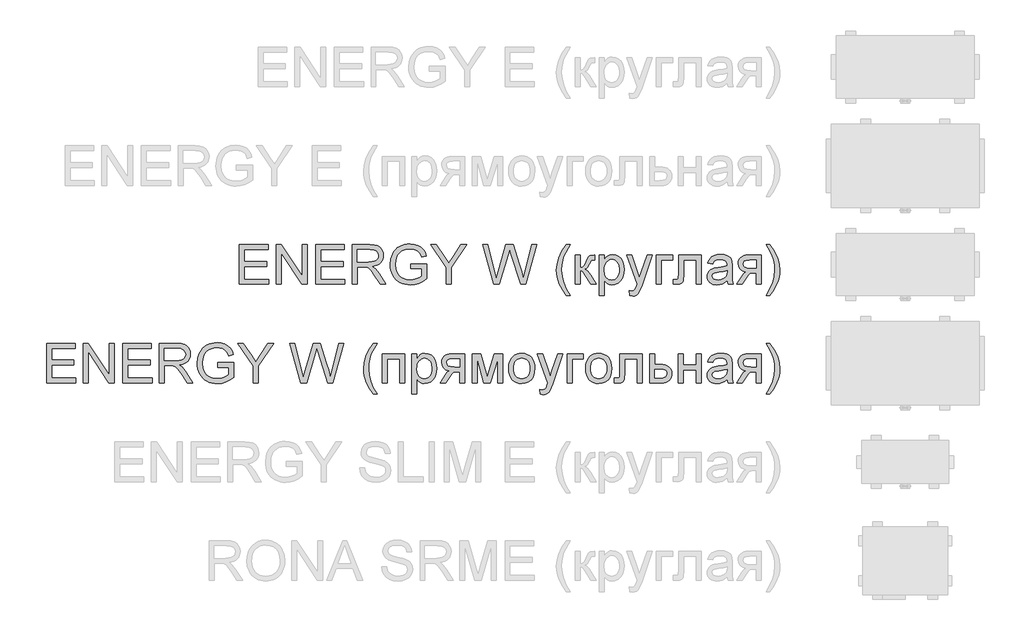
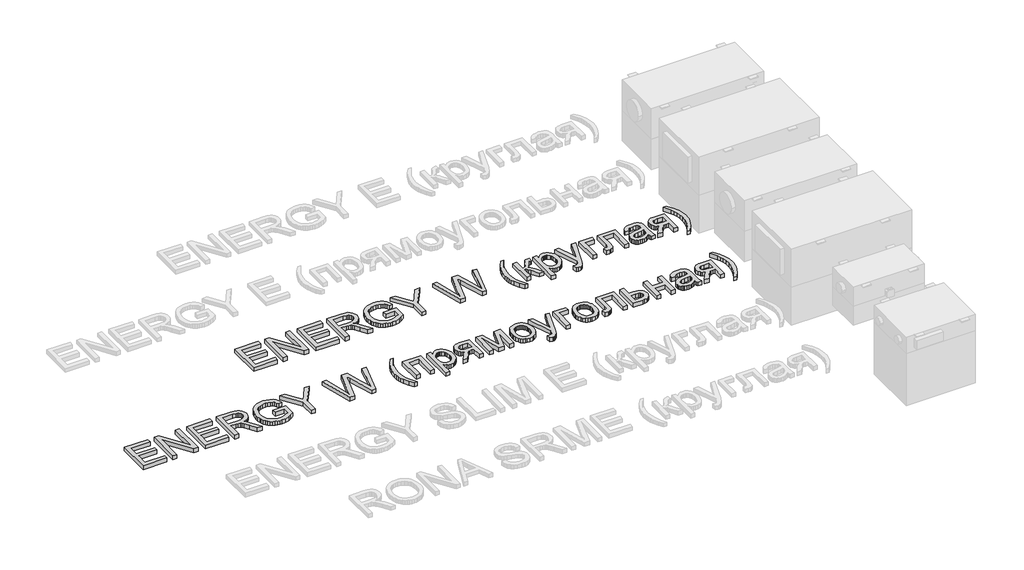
# One storey, part 22 of 28: 2 proxies.
"""IFC4 building model written with IfcOpenShell, lengths in millimetres."""

from ifc_helpers import new_model, si_unit, origin, origin_with_axes, place, context, project, spatial, polyline, outline, extrude, element, save

model = new_model("IFC4")

# Units and contexts
model_context = context("Model", 3, world=origin())
ifc_project = project(units=[si_unit("LENGTHUNIT", "METRE", prefix="MILLI")], contexts=[model_context])

# Site, building, storey
site = spatial("IfcSite", under=ifc_project)
building = spatial("IfcBuilding", under=site)
storey = spatial("IfcBuildingStorey", under=building, Name="Уровень 1", Elevation=0.0)

# Proxies
placement = place(None, origin())
element("IfcBuildingElementProxy", 1, Name="400 мм Arial", ObjectType="400 мм Arial", at=placement, inside=storey, context=model_context, shape_type="SweptSolid", body=[
    extrude(outline(polyline([(-27416.0269748, 16271.3067858), (-27416.0269748, 16673.1320263), (-27127.2150831, 16673.1320263), (-27127.2150831, 16622.9038713), (-27365.7988197, 16622.9038713), (-27365.7988197, 16503.612003), (-27139.7721219, 16503.612003), (-27139.7721219, 16453.3838479), (-27365.7988197, 16453.3838479), (-27365.7988197, 16321.5349408), (-27120.9365637, 16321.5349408), (-27120.9365637, 16271.3067858), (-27416.0269748, 16271.3067858)])), origin_with_axes(), (0.0, 0.0, 1.0), 50.0),
    extrude(outline(polyline([(-27045.5943311, 16271.3067858), (-27045.5943311, 16673.1320263), (-26991.8345089, 16673.1320263), (-26781.8965169, 16354.7914732), (-26781.8965169, 16673.1320263), (-26731.6683619, 16673.1320263), (-26731.6683619, 16271.3067858), (-26785.4281841, 16271.3067858), (-26995.366176, 16589.7454408), (-26995.366176, 16271.3067858), (-27045.5943311, 16271.3067858)])), origin_with_axes(), (0.0, 0.0, 1.0), 50.0),
    extrude(outline(polyline([(-26643.7690905, 16271.3067858), (-26643.7690905, 16673.1320263), (-26354.9571988, 16673.1320263), (-26354.9571988, 16622.9038713), (-26593.5409354, 16622.9038713), (-26593.5409354, 16503.612003), (-26367.5142376, 16503.612003), (-26367.5142376, 16453.3838479), (-26593.5409354, 16453.3838479), (-26593.5409354, 16321.5349408), (-26348.6786794, 16321.5349408), (-26348.6786794, 16271.3067858), (-26643.7690905, 16271.3067858)])), origin_with_axes(), (0.0, 0.0, 1.0), 50.0),
    extrude(outline(polyline([(-26273.3364468, 16271.3067858), (-26273.3364468, 16673.1320263), (-26100.1866544, 16673.1320263), (-26053.649582, 16670.4219623), (-26019.7921757, 16662.2917702), (-25995.0459802, 16647.2821848), (-25975.84254, 16623.9339409), (-25963.5184932, 16594.9816278), (-25959.4104776, 16563.1598353), (-25961.1119318, 16542.5216553), (-25966.2162945, 16523.5757326), (-25974.7235656, 16506.322067), (-25986.6337452, 16490.7606586), (-26002.1001175, 16477.3881481), (-26021.2759665, 16466.7011761), (-26044.1612922, 16458.6997427), (-26070.7560948, 16453.3838479), (-26042.208452, 16431.8995394), (-26001.4961778, 16380.1998563), (-25934.4926038, 16271.3067858), (-25992.8632137, 16271.3067858), (-26045.1515079, 16354.5952695), (-26082.9207261, 16409.7285178), (-26096.9615556, 16425.804961), (-26109.4572807, 16435.7745631), (-26133.3450849, 16445.3394949), (-26162.4813389, 16447.1053285), (-26223.1082917, 16447.1053285), (-26223.1082917, 16271.3067858), (-26273.3364468, 16271.3067858)]), holes=[polyline([(-26223.1082917, 16497.3334836), (-26110.683554, 16497.3334836), (-26078.3957776, 16499.1115799), (-26053.3430137, 16504.4458688), (-26034.4829301, 16513.6919696), (-26020.7731944, 16527.2055016), (-26012.4222731, 16543.5517249), (-26009.6386327, 16561.2958998), (-26014.9483961, 16585.7968407), (-26030.8776865, 16605.5398411), (-26043.0392522, 16613.1366043), (-26058.2848952, 16618.5628637), (-26098.0284134, 16622.9038713), (-26223.1082917, 16622.9038713), (-26223.1082917, 16497.3334836)])]), origin_with_axes(), (0.0, 0.0, 1.0), 50.0),
    extrude(outline(polyline([(-25683.1556247, 16428.2697704), (-25683.1556247, 16478.4979254), (-25519.9141207, 16478.4979254), (-25519.9141207, 16328.3039695), (-25559.5840625, 16300.7128199), (-25600.5048031, 16280.9207686), (-25642.5782406, 16269.0013919), (-25685.7062732, 16265.0282664), (-25714.5574187, 16266.6070933), (-25742.0535321, 16271.343574), (-25768.1946136, 16279.2377084), (-25792.980663, 16290.2894967), (-25815.611537, 16304.3333919), (-25835.2870924, 16321.203847), (-25852.0073291, 16340.9008622), (-25865.7722471, 16363.4244373), (-25876.5235984, 16388.0541369), (-25884.2031351, 16414.0695253), (-25888.810857, 16441.4706026), (-25890.3467644, 16470.2573687), (-25884.2276605, 16526.8498823), (-25876.5787807, 16553.6654141), (-25865.870349, 16579.4937958), (-25852.2924377, 16603.2007247), (-25836.0351191, 16623.651898), (-25817.0983934, 16640.8473156), (-25795.4822605, 16654.7869775), (-25771.65577, 16665.5597886), (-25746.0879713, 16673.2546537), (-25718.7788646, 16677.8715727), (-25689.7284497, 16679.4105457), (-25648.3539879, 16675.8420904), (-25611.1488555, 16665.1367243), (-25579.8175722, 16648.0669997), (-25556.0646581, 16625.4054688), (-25538.4921614, 16596.0607484), (-25525.7021308, 16558.941455), (-25572.0062112, 16545.893907), (-25582.3436953, 16572.3691479), (-25594.9129968, 16592.3451402), (-25611.541263, 16607.4037765), (-25634.0556411, 16619.1269495), (-25660.898764, 16626.6685304), (-25690.5132646, 16629.1823907), (-25725.1800113, 16626.4723266), (-25754.8190373, 16618.3421345), (-25779.3199782, 16605.8096212), (-25798.5724693, 16589.8925936), (-25813.3490628, 16571.4126547), (-25824.4223108, 16551.1914077), (-25836.1945347, 16513.2750367), (-25840.1186093, 16472.3175079), (-25835.397457, 16424.2843821), (-25821.2340002, 16384.7615931), (-25798.0574345, 16354.0311837), (-25766.2969556, 16332.375197), (-25729.1286114, 16319.5361153), (-25689.7284497, 16315.2564214), (-25654.9390757, 16318.4815203), (-25621.008093, 16328.1568167), (-25591.5407452, 16341.4864077), (-25570.1422758, 16355.67439), (-25570.1422758, 16428.2697704), (-25683.1556247, 16428.2697704)])), origin_with_axes(), (0.0, 0.0, 1.0), 50.0),
    extrude(outline(polyline([(-25325.2800198, 16271.3067858), (-25325.2800198, 16441.5135222), (-25482.2430044, 16673.1320263), (-25422.9894777, 16673.1320263), (-25339.2104847, 16549.4255741), (-25296.3399695, 16486.3460747), (-25253.3713525, 16553.9382599), (-25177.3424068, 16673.1320263), (-25118.0888801, 16673.1320263), (-25275.0518647, 16441.5135222), (-25275.0518647, 16271.3067858), (-25325.2800198, 16271.3067858)])), origin_with_axes(), (0.0, 0.0, 1.0), 50.0),
    extrude(outline(polyline([(-24845.2675925, 16271.3067858), (-24954.8473761, 16673.1320263), (-24903.0495912, 16673.1320263), (-24839.4795824, 16409.0418047), (-24819.8592093, 16327.5191546), (-24798.8654101, 16399.6240257), (-24719.2066955, 16673.1320263), (-24644.5511759, 16673.1320263), (-24586.6710753, 16474.8681564), (-24561.8758289, 16401.2917574), (-24543.6043564, 16327.5191546), (-24524.5725945, 16406.68736), (-24460.4139746, 16673.1320263), (-24408.6161897, 16673.1320263), (-24518.2940752, 16271.3067858), (-24571.9557955, 16271.3067858), (-24668.2918273, 16581.3086804), (-24681.7317829, 16624.571603), (-24696.8394702, 16572.4795125), (-24784.6406397, 16271.3067858), (-24845.2675925, 16271.3067858)])), origin_with_axes(), (0.0, 0.0, 1.0), 50.0),
    extrude(outline(polyline([(-24107.2472592, 16158.2934368), (-24146.1691743, 16212.9116504), (-24178.5673153, 16276.1137772), (-24191.3144265, 16310.1673872), (-24200.4195059, 16344.8341339), (-24205.8825535, 16380.1140172), (-24207.7035694, 16416.0070372), (-24202.2589158, 16478.424349), (-24185.9249552, 16538.1438596), (-24153.5022887, 16605.7850958), (-24107.2472592, 16673.1320263), (-24069.5761429, 16673.1320263), (-24116.5669364, 16593.5714135), (-24132.6065914, 16555.8021954), (-24144.8202737, 16516.4633473), (-24154.3116291, 16466.2106668), (-24157.4754143, 16415.7127316), (-24151.9817098, 16351.3211197), (-24135.5005964, 16286.9540333), (-24108.0320741, 16222.6114723), (-24069.5761429, 16158.2934368), (-24107.2472592, 16158.2934368)])), origin_with_axes(), (0.0, 0.0, 1.0), 50.0),
    extrude(outline(polyline([(-24019.3479878, 16566.3971968), (-23969.1198328, 16566.3971968), (-23969.1198328, 16440.8268091), (-23948.6901193, 16443.083152), (-23935.4708929, 16449.8521807), (-23923.7722455, 16467.5105165), (-23907.9042688, 16502.4347806), (-23884.9974832, 16547.8068933), (-23875.5551787, 16556.967155), (-23864.7884989, 16562.5712241), (-23828.0493503, 16566.3971968), (-23818.4353675, 16566.3971968), (-23818.4353675, 16515.8747361), (-23831.973425, 16516.1690417), (-23847.6697234, 16514.8446666), (-23856.4988913, 16510.871541), (-23873.7648196, 16477.8112124), (-23884.3720838, 16455.7750809), (-23894.0228548, 16442.0530824), (-23905.7092395, 16432.8928208), (-23922.4233448, 16424.5418995), (-23906.5063172, 16417.4724338), (-23890.7364423, 16404.9951028), (-23875.1137203, 16387.1099065), (-23859.638151, 16363.8168448), (-23805.8783288, 16271.3067858), (-23862.9736144, 16271.3067858), (-23915.6543161, 16361.8548075), (-23929.8790866, 16385.9510782), (-23942.1418198, 16400.1635859), (-23954.5271803, 16407.1165556), (-23969.1198328, 16409.4342122), (-23969.1198328, 16271.3067858), (-24019.3479878, 16271.3067858), (-24019.3479878, 16566.3971968)])), origin_with_axes(), (0.0, 0.0, 1.0), 50.0),
    extrude(outline(polyline([(-23774.4857318, 16158.2934368), (-23774.4857318, 16566.3971968), (-23724.2575768, 16566.3971968), (-23724.2575768, 16517.1500604), (-23707.8745653, 16541.4425348), (-23689.5295164, 16558.7943022), (-23668.1433098, 16569.2053627), (-23642.6368248, 16572.6757162), (-23608.6690539, 16567.8196739), (-23578.9687141, 16553.2515469), (-23554.7866043, 16529.854252), (-23537.3735232, 16498.510706), (-23526.8520982, 16461.5017773), (-23523.3449565, 16421.1083342), (-23527.3058193, 16378.1519799), (-23539.1884077, 16339.7328369), (-23558.6125771, 16307.8006797), (-23585.1981826, 16284.3052829), (-23616.1615839, 16269.8475205), (-23648.7191404, 16265.0282664), (-23671.809867, 16268.2533652), (-23692.4235215, 16277.9286617), (-23710.0695945, 16292.5335769), (-23724.2575768, 16310.5475319), (-23724.2575768, 16158.2934368), (-23774.4857318, 16158.2934368)]), holes=[polyline([(-23724.2575768, 16416.4975465), (-23718.825186, 16371.4687903), (-23712.0346975, 16354.0311837), (-23702.5280136, 16339.9780915), (-23678.4807938, 16321.436839), (-23664.7189415, 16316.8015258), (-23649.7982609, 16315.2564214), (-23634.6629825, 16316.8567081), (-23620.6497442, 16321.6575682), (-23607.7585459, 16329.6590016), (-23595.9893878, 16340.8610083), (-23586.1822669, 16355.4230039), (-23579.1771806, 16373.504404), (-23574.9741288, 16395.1052085), (-23573.5731115, 16420.2254174), (-23579.0422905, 16465.0089189), (-23585.8787643, 16482.5814156), (-23595.4498275, 16496.9410761), (-23619.4602591, 16516.0709399), (-23633.0657615, 16520.8534058), (-23647.7381218, 16522.4475611), (-23662.3644968, 16520.7522383), (-23676.1263491, 16515.6662697), (-23701.0564856, 16495.3223953), (-23711.206963, 16480.2239051), (-23718.457304, 16462.0536003), (-23722.8075086, 16440.8114807), (-23724.2575768, 16416.4975465)])]), origin_with_axes(), (0.0, 0.0, 1.0), 50.0),
    extrude(outline(polyline([(-23466.838282, 16158.2934368), (-23473.1168014, 16206.6576565), (-23447.6103164, 16202.2430725), (-23434.1948863, 16203.6287614), (-23423.7715631, 16207.7858279), (-23409.1543852, 16223.2368717), (-23395.420124, 16260.221275), (-23391.4960494, 16272.3859063), (-23498.2308789, 16566.3971968), (-23445.2558716, 16566.3971968), (-23388.6510953, 16402.5670816), (-23368.9326204, 16337.0350356), (-23349.2141454, 16394.9151361), (-23291.0397392, 16566.3971968), (-23238.4571394, 16566.3971968), (-23341.1697925, 16264.2434514), (-23367.8534998, 16198.7114054), (-23381.5141846, 16177.7911826), (-23396.9897539, 16163.296632), (-23414.9669207, 16154.8353461), (-23436.1323981, 16152.0149174), (-23466.838282, 16158.2934368)])), origin_with_axes(), (0.0, 0.0, 1.0), 50.0),
    extrude(outline(polyline([(-23196.8619485, 16566.3971968), (-23033.6204445, 16566.3971968), (-23033.6204445, 16516.1690417), (-23146.6337934, 16516.1690417), (-23146.6337934, 16271.3067858), (-23196.8619485, 16271.3067858), (-23196.8619485, 16566.3971968)])), origin_with_axes(), (0.0, 0.0, 1.0), 50.0),
    extrude(outline(polyline([(-22970.8352506, 16566.3971968), (-22744.8085528, 16566.3971968), (-22744.8085528, 16271.6010913), (-22795.0367079, 16271.6010913), (-22795.0367079, 16516.1690417), (-22920.6070956, 16516.1690417), (-22920.6070956, 16375.3928649), (-22923.9916099, 16310.44943), (-22930.331443, 16295.746413), (-22942.5819134, 16283.0299587), (-22961.1722169, 16274.237579), (-22986.5315491, 16271.3067858), (-23027.3419251, 16273.8574343), (-23027.3419251, 16321.5349408), (-23004.8765979, 16321.5349408), (-22982.1660161, 16324.6251496), (-22973.0915936, 16334.4353361), (-22970.8352506, 16378.237819), (-22970.8352506, 16566.3971968)])), origin_with_axes(), (0.0, 0.0, 1.0), 50.0),
    extrude(outline(polyline([(-22481.1107387, 16308.9779021), (-22505.1089075, 16288.4010358), (-22529.8183148, 16274.9365548), (-22555.8030464, 16267.5053385), (-22583.627188, 16265.0282664), (-22605.9913476, 16266.5181884), (-22625.6025236, 16270.9879547), (-22642.4607161, 16278.4375651), (-22656.5659249, 16288.8670197), (-22667.7035523, 16301.6141308), (-22675.6590005, 16316.0167109), (-22680.4322693, 16332.07476), (-22682.023359, 16349.7882781), (-22679.6198633, 16370.610399), (-22672.4093762, 16389.5195335), (-22661.2870772, 16405.7063413), (-22647.1481458, 16418.361482), (-22630.5321424, 16427.9264138), (-22611.9786271, 16434.8425953), (-22568.5195007, 16442.396439), (-22517.1631742, 16450.3426901), (-22481.4050443, 16459.6623673), (-22481.1107387, 16470.8459799), (-22484.5688294, 16493.2622562), (-22494.9431017, 16507.928485), (-22518.1441928, 16518.8177921), (-22550.4687575, 16522.4475611), (-22580.3898264, 16520.0318027), (-22601.2855238, 16512.7845274), (-22615.5348197, 16499.38136), (-22625.5166845, 16478.4979254), (-22675.7448396, 16484.7764448), (-22667.0260363, 16512.2449671), (-22654.0152764, 16533.8273775), (-22635.4985493, 16550.3330164), (-22610.2618444, 16562.5712241), (-22579.396545, 16570.1495932), (-22543.9940344, 16572.6757162), (-22510.0385262, 16570.4438988), (-22483.1218269, 16563.7484465), (-22462.8270035, 16553.6807425), (-22448.7371231, 16541.3321702), (-22439.3929204, 16526.0650674), (-22433.3351302, 16507.241772), (-22430.8825836, 16463.2921363), (-22430.8825836, 16400.8012481), (-22428.3319351, 16313.5396388), (-22418.3255448, 16271.3067858), (-22468.5536999, 16271.3067858), (-22476.5980529, 16288.7689178), (-22481.1107387, 16308.9779021)]), holes=[polyline([(-22481.1107387, 16409.4342122), (-22514.8577804, 16401.0710282), (-22562.1428795, 16394.0322193), (-22605.3567512, 16385.8897645), (-22616.6016775, 16380.3224837), (-22624.9280733, 16372.6460127), (-22630.0784212, 16363.4489628), (-22631.7952039, 16353.3199452), (-22628.0550703, 16338.3839362), (-22616.8346694, 16326.1457285), (-22598.379256, 16317.9787482), (-22572.9340847, 16315.2564214), (-22545.9560717, 16318.2607911), (-22522.1173184, 16327.2739), (-22502.7912509, 16340.55444), (-22489.3512954, 16356.361103), (-22483.391607, 16372.6460127), (-22481.4050443, 16395.2094417), (-22481.1107387, 16409.4342122)])]), origin_with_axes(), (0.0, 0.0, 1.0), 50.0),
    extrude(outline(polyline([(-22135.7921725, 16566.3971968), (-22135.7921725, 16271.3067858), (-22186.0203276, 16271.3067858), (-22186.0203276, 16384.3201347), (-22213.390748, 16384.3201347), (-22235.2184131, 16382.7259794), (-22250.6694569, 16377.9435134), (-22265.556415, 16364.037574), (-22285.6918228, 16335.0729982), (-22325.7173839, 16271.3067858), (-22383.7936882, 16271.3067858), (-22333.3693294, 16351.9465191), (-22311.100206, 16380.8865694), (-22290.5969161, 16393.7379137), (-22324.932569, 16404.2593388), (-22338.2744227, 16413.0701126), (-22349.0656279, 16424.2475939), (-22363.3394493, 16450.8331994), (-22368.0973897, 16481.1466758), (-22366.4725776, 16499.2342072), (-22361.5981412, 16515.5313796), (-22353.4740804, 16530.038193), (-22342.1003954, 16542.7546473), (-22327.6487644, 16553.0982627), (-22310.2908656, 16560.4865594), (-22290.026699, 16564.9195375), (-22266.8562647, 16566.3971968), (-22135.7921725, 16566.3971968)]), holes=[polyline([(-22186.0203276, 16516.1690417), (-22252.2390867, 16516.1690417), (-22286.4398496, 16513.262774), (-22305.8517562, 16504.5439707), (-22314.864865, 16491.9256183), (-22317.8692347, 16477.3207031), (-22313.442388, 16458.1785766), (-22300.161848, 16444.8980365), (-22275.6241189, 16437.1357264), (-22237.4257051, 16434.5482897), (-22186.0203276, 16434.5482897), (-22186.0203276, 16516.1690417)])]), origin_with_axes(), (0.0, 0.0, 1.0), 50.0),
    extrude(outline(polyline([(-22047.8929011, 16158.2934368), (-22085.5640175, 16158.2934368), (-22047.1080862, 16222.6114723), (-22019.6395639, 16286.9540333), (-22003.1584505, 16351.3211197), (-21997.6647461, 16415.7127316), (-22000.8285312, 16465.8427848), (-22010.3198867, 16515.5804305), (-22022.3128397, 16554.992855), (-22038.2789183, 16592.7865986), (-22085.5640175, 16673.1320263), (-22047.8929011, 16673.1320263), (-22001.6378716, 16605.7850958), (-21969.2152051, 16538.1438596), (-21952.8812445, 16478.424349), (-21947.436591, 16416.0070372), (-21949.2668039, 16380.1140172), (-21954.7574427, 16344.8341339), (-21963.9085073, 16310.1673872), (-21976.7199978, 16276.1137772), (-22009.1549271, 16212.9116504), (-22047.8929011, 16158.2934368)])), origin_with_axes(), (0.0, 0.0, 1.0), 50.0),
])
element("IfcBuildingElementProxy", 2, Name="400 мм Arial", ObjectType="400 мм Arial", at=placement, inside=storey, context=model_context, shape_type="SweptSolid", body=[
    extrude(outline(polyline([(-29368.6465033, 15271.3067858), (-29368.6465033, 15673.1320263), (-29079.8346116, 15673.1320263), (-29079.8346116, 15622.9038713), (-29318.4183482, 15622.9038713), (-29318.4183482, 15503.612003), (-29092.3916504, 15503.612003), (-29092.3916504, 15453.3838479), (-29318.4183482, 15453.3838479), (-29318.4183482, 15321.5349408), (-29073.5560922, 15321.5349408), (-29073.5560922, 15271.3067858), (-29368.6465033, 15271.3067858)])), origin_with_axes(), (0.0, 0.0, 1.0), 50.0),
    extrude(outline(polyline([(-28998.2138596, 15271.3067858), (-28998.2138596, 15673.1320263), (-28944.4540374, 15673.1320263), (-28734.5160455, 15354.7914732), (-28734.5160455, 15673.1320263), (-28684.2878904, 15673.1320263), (-28684.2878904, 15271.3067858), (-28738.0477126, 15271.3067858), (-28947.9857045, 15589.7454408), (-28947.9857045, 15271.3067858), (-28998.2138596, 15271.3067858)])), origin_with_axes(), (0.0, 0.0, 1.0), 50.0),
    extrude(outline(polyline([(-28596.388619, 15271.3067858), (-28596.388619, 15673.1320263), (-28307.5767273, 15673.1320263), (-28307.5767273, 15622.9038713), (-28546.160464, 15622.9038713), (-28546.160464, 15503.612003), (-28320.1337661, 15503.612003), (-28320.1337661, 15453.3838479), (-28546.160464, 15453.3838479), (-28546.160464, 15321.5349408), (-28301.298208, 15321.5349408), (-28301.298208, 15271.3067858), (-28596.388619, 15271.3067858)])), origin_with_axes(), (0.0, 0.0, 1.0), 50.0),
    extrude(outline(polyline([(-28225.9559753, 15271.3067858), (-28225.9559753, 15673.1320263), (-28052.806183, 15673.1320263), (-28006.2691106, 15670.4219623), (-27972.4117043, 15662.2917702), (-27947.6655087, 15647.2821848), (-27928.4620686, 15623.9339409), (-27916.1380217, 15594.9816278), (-27912.0300061, 15563.1598353), (-27913.7314604, 15542.5216553), (-27918.835823, 15523.5757326), (-27927.3430942, 15506.322067), (-27939.2532738, 15490.7606586), (-27954.719646, 15477.3881481), (-27973.895495, 15466.7011761), (-27996.7808208, 15458.6997427), (-28023.3756233, 15453.3838479), (-27994.8279805, 15431.8995394), (-27954.1157064, 15380.1998563), (-27887.1121323, 15271.3067858), (-27945.4827422, 15271.3067858), (-27997.7710365, 15354.5952695), (-28035.5402546, 15409.7285178), (-28049.5810841, 15425.804961), (-28062.0768092, 15435.7745631), (-28085.9646135, 15445.3394949), (-28115.1008675, 15447.1053285), (-28175.7278203, 15447.1053285), (-28175.7278203, 15271.3067858), (-28225.9559753, 15271.3067858)]), holes=[polyline([(-28175.7278203, 15497.3334836), (-28063.3030825, 15497.3334836), (-28031.0153061, 15499.1115799), (-28005.9625422, 15504.4458688), (-27987.1024586, 15513.6919696), (-27973.3927229, 15527.2055016), (-27965.0418016, 15543.5517249), (-27962.2581612, 15561.2958998), (-27967.5679247, 15585.7968407), (-27983.4972151, 15605.5398411), (-27995.6587807, 15613.1366043), (-28010.9044237, 15618.5628637), (-28050.6479419, 15622.9038713), (-28175.7278203, 15622.9038713), (-28175.7278203, 15497.3334836)])]), origin_with_axes(), (0.0, 0.0, 1.0), 50.0),
    extrude(outline(polyline([(-27635.7751532, 15428.2697704), (-27635.7751532, 15478.4979254), (-27472.5336492, 15478.4979254), (-27472.5336492, 15328.3039695), (-27512.203591, 15300.7128199), (-27553.1243316, 15280.9207686), (-27595.1977692, 15269.0013919), (-27638.3258017, 15265.0282664), (-27667.1769472, 15266.6070933), (-27694.6730606, 15271.343574), (-27720.8141421, 15279.2377084), (-27745.6001915, 15290.2894967), (-27768.2310656, 15304.3333919), (-27787.906621, 15321.203847), (-27804.6268576, 15340.9008622), (-27818.3917756, 15363.4244373), (-27829.1431269, 15388.0541369), (-27836.8226636, 15414.0695253), (-27841.4303856, 15441.4706026), (-27842.9662929, 15470.2573687), (-27836.847189, 15526.8498823), (-27829.1983092, 15553.6654141), (-27818.4898775, 15579.4937958), (-27804.9119662, 15603.2007247), (-27788.6546477, 15623.651898), (-27769.717922, 15640.8473156), (-27748.1017891, 15654.7869775), (-27724.2752985, 15665.5597886), (-27698.7074999, 15673.2546537), (-27671.3983931, 15677.8715727), (-27642.3479782, 15679.4105457), (-27600.9735165, 15675.8420904), (-27563.768384, 15665.1367243), (-27532.4371008, 15648.0669997), (-27508.6841866, 15625.4054688), (-27491.11169, 15596.0607484), (-27478.3216593, 15558.941455), (-27524.6257397, 15545.893907), (-27534.9632238, 15572.3691479), (-27547.5325253, 15592.3451402), (-27564.1607915, 15607.4037765), (-27586.6751696, 15619.1269495), (-27613.5182925, 15626.6685304), (-27643.1327931, 15629.1823907), (-27677.7995398, 15626.4723266), (-27707.4385659, 15618.3421345), (-27731.9395068, 15605.8096212), (-27751.1919978, 15589.8925936), (-27765.9685913, 15571.4126547), (-27777.0418394, 15551.1914077), (-27788.8140632, 15513.2750367), (-27792.7381378, 15472.3175079), (-27788.0169856, 15424.2843821), (-27773.8535287, 15384.7615931), (-27750.676963, 15354.0311837), (-27718.9164841, 15332.375197), (-27681.7481399, 15319.5361153), (-27642.3479782, 15315.2564214), (-27607.5586042, 15318.4815203), (-27573.6276215, 15328.1568167), (-27544.1602737, 15341.4864077), (-27522.7618043, 15355.67439), (-27522.7618043, 15428.2697704), (-27635.7751532, 15428.2697704)])), origin_with_axes(), (0.0, 0.0, 1.0), 50.0),
    extrude(outline(polyline([(-27277.8995483, 15271.3067858), (-27277.8995483, 15441.5135222), (-27434.8625329, 15673.1320263), (-27375.6090062, 15673.1320263), (-27291.8300132, 15549.4255741), (-27248.959498, 15486.3460747), (-27205.990881, 15553.9382599), (-27129.9619353, 15673.1320263), (-27070.7084086, 15673.1320263), (-27227.6713932, 15441.5135222), (-27227.6713932, 15271.3067858), (-27277.8995483, 15271.3067858)])), origin_with_axes(), (0.0, 0.0, 1.0), 50.0),
    extrude(outline(polyline([(-26797.887121, 15271.3067858), (-26907.4669046, 15673.1320263), (-26855.6691197, 15673.1320263), (-26792.0991109, 15409.0418047), (-26772.4787379, 15327.5191546), (-26751.4849387, 15399.6240257), (-26671.826224, 15673.1320263), (-26597.1707044, 15673.1320263), (-26539.2906039, 15474.8681564), (-26514.4953574, 15401.2917574), (-26496.223885, 15327.5191546), (-26477.1921231, 15406.68736), (-26413.0335031, 15673.1320263), (-26361.2357182, 15673.1320263), (-26470.9136037, 15271.3067858), (-26524.5753241, 15271.3067858), (-26620.9113559, 15581.3086804), (-26634.3513114, 15624.571603), (-26649.4589987, 15572.4795125), (-26737.2601682, 15271.3067858), (-26797.887121, 15271.3067858)])), origin_with_axes(), (0.0, 0.0, 1.0), 50.0),
    extrude(outline(polyline([(-26059.8667877, 15158.2934368), (-26098.7887028, 15212.9116504), (-26131.1868439, 15276.1137772), (-26143.933955, 15310.1673872), (-26153.0390344, 15344.8341339), (-26158.502082, 15380.1140172), (-26160.3230979, 15416.0070372), (-26154.8784444, 15478.424349), (-26138.5444838, 15538.1438596), (-26106.1218173, 15605.7850958), (-26059.8667877, 15673.1320263), (-26022.1956714, 15673.1320263), (-26069.186465, 15593.5714135), (-26085.2261199, 15555.8021954), (-26097.4398022, 15516.4633473), (-26106.9311577, 15466.2106668), (-26110.0949428, 15415.7127316), (-26104.6012384, 15351.3211197), (-26088.120125, 15286.9540333), (-26060.6516027, 15222.6114723), (-26022.1956714, 15158.2934368), (-26059.8667877, 15158.2934368)])), origin_with_axes(), (0.0, 0.0, 1.0), 50.0),
    extrude(outline(polyline([(-25971.9675164, 15566.3971968), (-25745.9408185, 15566.3971968), (-25745.9408185, 15271.3067858), (-25796.1689736, 15271.3067858), (-25796.1689736, 15516.1690417), (-25921.7393613, 15516.1690417), (-25921.7393613, 15271.3067858), (-25971.9675164, 15271.3067858), (-25971.9675164, 15566.3971968)])), origin_with_axes(), (0.0, 0.0, 1.0), 50.0),
    extrude(outline(polyline([(-25670.5985859, 15158.2934368), (-25670.5985859, 15566.3971968), (-25620.3704308, 15566.3971968), (-25620.3704308, 15517.1500604), (-25603.9874193, 15541.4425348), (-25585.6423705, 15558.7943022), (-25564.2561638, 15569.2053627), (-25538.7496788, 15572.6757162), (-25504.781908, 15567.8196739), (-25475.0815682, 15553.2515469), (-25450.8994584, 15529.854252), (-25433.4863773, 15498.510706), (-25422.9649522, 15461.5017773), (-25419.4578105, 15421.1083342), (-25423.4186734, 15378.1519799), (-25435.3012618, 15339.7328369), (-25454.7254311, 15307.8006797), (-25481.3110367, 15284.3052829), (-25512.2744379, 15269.8475205), (-25544.8319945, 15265.0282664), (-25567.9227211, 15268.2533652), (-25588.5363755, 15277.9286617), (-25606.1824486, 15292.5335769), (-25620.3704308, 15310.5475319), (-25620.3704308, 15158.2934368), (-25670.5985859, 15158.2934368)]), holes=[polyline([(-25620.3704308, 15416.4975465), (-25614.93804, 15371.4687903), (-25608.1475516, 15354.0311837), (-25598.6408677, 15339.9780915), (-25574.5936479, 15321.436839), (-25560.8317956, 15316.8015258), (-25545.911115, 15315.2564214), (-25530.7758366, 15316.8567081), (-25516.7625983, 15321.6575682), (-25503.8714, 15329.6590016), (-25492.1022419, 15340.8610083), (-25482.295121, 15355.4230039), (-25475.2900347, 15373.504404), (-25471.0869829, 15395.1052085), (-25469.6859656, 15420.2254174), (-25475.1551446, 15465.0089189), (-25481.9916184, 15482.5814156), (-25491.5626816, 15496.9410761), (-25515.5731132, 15516.0709399), (-25529.1786156, 15520.8534058), (-25543.8509758, 15522.4475611), (-25558.4773508, 15520.7522383), (-25572.2392031, 15515.6662697), (-25597.1693397, 15495.3223953), (-25607.3198171, 15480.2239051), (-25614.5701581, 15462.0536003), (-25618.9203626, 15440.8114807), (-25620.3704308, 15416.4975465)])]), origin_with_axes(), (0.0, 0.0, 1.0), 50.0),
    extrude(outline(polyline([(-25136.9244382, 15566.3971968), (-25136.9244382, 15271.3067858), (-25187.1525933, 15271.3067858), (-25187.1525933, 15384.3201347), (-25214.5230138, 15384.3201347), (-25236.3506788, 15382.7259794), (-25251.8017226, 15377.9435134), (-25266.6886807, 15364.037574), (-25286.8240885, 15335.0729982), (-25326.8496496, 15271.3067858), (-25384.9259539, 15271.3067858), (-25334.5015951, 15351.9465191), (-25312.2324717, 15380.8865694), (-25291.7291818, 15393.7379137), (-25326.0648347, 15404.2593388), (-25339.4066884, 15413.0701126), (-25350.1978936, 15424.2475939), (-25364.471715, 15450.8331994), (-25369.2296555, 15481.1466758), (-25367.6048433, 15499.2342072), (-25362.7304069, 15515.5313796), (-25354.6063462, 15530.038193), (-25343.2326611, 15542.7546473), (-25328.7810301, 15553.0982627), (-25311.4231313, 15560.4865594), (-25291.1589647, 15564.9195375), (-25267.9885304, 15566.3971968), (-25136.9244382, 15566.3971968)]), holes=[polyline([(-25187.1525933, 15516.1690417), (-25253.3713525, 15516.1690417), (-25287.5721153, 15513.262774), (-25306.9840219, 15504.5439707), (-25315.9971308, 15491.9256183), (-25319.0015004, 15477.3207031), (-25314.5746537, 15458.1785766), (-25301.2941137, 15444.8980365), (-25276.7563846, 15437.1357264), (-25238.5579708, 15434.5482897), (-25187.1525933, 15434.5482897), (-25187.1525933, 15516.1690417)])]), origin_with_axes(), (0.0, 0.0, 1.0), 50.0),
    extrude(outline(polyline([(-25061.5822056, 15566.3971968), (-24975.1544622, 15566.3971968), (-24908.5432956, 15330.167905), (-24836.7327302, 15566.3971968), (-24753.9347558, 15566.3971968), (-24753.9347558, 15271.3067858), (-24804.1629109, 15271.3067858), (-24804.1629109, 15508.9095037), (-24876.3658838, 15271.3067858), (-24942.2903373, 15271.3067858), (-25011.3540506, 15520.2893201), (-25011.3540506, 15271.3067858), (-25061.5822056, 15271.3067858), (-25061.5822056, 15566.3971968)])), origin_with_axes(), (0.0, 0.0, 1.0), 50.0),
    extrude(outline(polyline([(-24691.149562, 15418.8519913), (-24688.4333666, 15457.0687992), (-24680.2847804, 15490.0003692), (-24666.7038034, 15517.6467011), (-24647.6904356, 15540.007795), (-24628.5483091, 15554.3000105), (-24607.4196199, 15564.5087359), (-24584.3043678, 15570.6339711), (-24559.202553, 15572.6757162), (-24531.4918417, 15570.189447), (-24506.4360122, 15562.7306396), (-24484.0350644, 15550.2992938), (-24464.2889983, 15532.8954098), (-24448.1727012, 15511.1075986), (-24436.6610604, 15485.5244715), (-24429.754076, 15456.1460285), (-24427.4517478, 15422.9722696), (-24431.5229752, 15372.2290798), (-24443.7366575, 15333.6014703), (-24463.7371753, 15304.6736827), (-24491.1689094, 15283.0299587), (-24523.7509914, 15269.5286894), (-24559.202553, 15265.0282664), (-24587.3179345, 15267.5053385), (-24612.606756, 15274.9365548), (-24635.0690175, 15287.3219153), (-24654.704719, 15304.66142), (-24670.6493378, 15326.6607633), (-24682.0383512, 15353.0256396), (-24688.8717593, 15383.7560489), (-24691.149562, 15418.8519913)]), holes=[polyline([(-24640.9214069, 15418.9500931), (-24639.468273, 15394.587108), (-24635.1088714, 15373.4921413), (-24627.843202, 15355.6651929), (-24617.6712648, 15341.106263), (-24605.298167, 15329.7969573), (-24591.4290158, 15321.7188818), (-24576.0638111, 15316.8720365), (-24559.202553, 15315.2564214), (-24542.427134, 15316.8812336), (-24527.123243, 15321.75567), (-24513.29088, 15329.8797308), (-24500.930045, 15341.2534158), (-24490.7581078, 15355.9564328), (-24483.4924384, 15374.0684897), (-24479.1330368, 15395.5895865), (-24477.6799029, 15420.519723), (-24479.1422338, 15444.1101559), (-24483.5292266, 15464.6532997), (-24490.8408813, 15482.1491542), (-24501.0771978, 15496.5977196), (-24513.4840181, 15507.9070253), (-24527.307184, 15515.9851007), (-24542.5466957, 15520.831946), (-24559.202553, 15522.4475611), (-24576.0638111, 15520.8380774), (-24591.4290158, 15516.0096262), (-24605.298167, 15507.9622076), (-24617.6712648, 15496.6958215), (-24627.843202, 15482.1798111), (-24635.1088714, 15464.3835196), (-24639.468273, 15443.3069469), (-24640.9214069, 15418.9500931)])]), origin_with_axes(), (0.0, 0.0, 1.0), 50.0),
    extrude(outline(polyline([(-24370.9450734, 15158.2934368), (-24377.2235927, 15206.6576565), (-24351.7171077, 15202.2430725), (-24338.3016777, 15203.6287614), (-24327.8783545, 15207.7858279), (-24313.2611765, 15223.2368717), (-24299.5269154, 15260.221275), (-24295.6028407, 15272.3859063), (-24402.3376703, 15566.3971968), (-24349.362663, 15566.3971968), (-24292.7578866, 15402.5670816), (-24273.0394117, 15337.0350356), (-24253.3209368, 15394.9151361), (-24195.1465306, 15566.3971968), (-24142.5639308, 15566.3971968), (-24245.2765838, 15264.2434514), (-24271.9602912, 15198.7114054), (-24285.6209759, 15177.7911826), (-24301.0965452, 15163.296632), (-24319.073712, 15154.8353461), (-24340.2391895, 15152.0149174), (-24370.9450734, 15158.2934368)])), origin_with_axes(), (0.0, 0.0, 1.0), 50.0),
    extrude(outline(polyline([(-24100.9687398, 15566.3971968), (-23937.7272358, 15566.3971968), (-23937.7272358, 15516.1690417), (-24050.7405848, 15516.1690417), (-24050.7405848, 15271.3067858), (-24100.9687398, 15271.3067858), (-24100.9687398, 15566.3971968)])), origin_with_axes(), (0.0, 0.0, 1.0), 50.0),
    extrude(outline(polyline([(-23912.6131583, 15418.8519913), (-23909.8969629, 15457.0687992), (-23901.7483767, 15490.0003692), (-23888.1673997, 15517.6467011), (-23869.1540319, 15540.007795), (-23850.0119055, 15554.3000105), (-23828.8832162, 15564.5087359), (-23805.7679642, 15570.6339711), (-23780.6661494, 15572.6757162), (-23752.9554381, 15570.189447), (-23727.8996085, 15562.7306396), (-23705.4986607, 15550.2992938), (-23685.7525946, 15532.8954098), (-23669.6362975, 15511.1075986), (-23658.1246568, 15485.5244715), (-23651.2176723, 15456.1460285), (-23648.9153442, 15422.9722696), (-23652.9865716, 15372.2290798), (-23665.2002538, 15333.6014703), (-23685.2007716, 15304.6736827), (-23712.6325057, 15283.0299587), (-23745.2145878, 15269.5286894), (-23780.6661494, 15265.0282664), (-23808.7815308, 15267.5053385), (-23834.0703523, 15274.9365548), (-23856.5326138, 15287.3219153), (-23876.1683153, 15304.66142), (-23892.1129341, 15326.6607633), (-23903.5019476, 15353.0256396), (-23910.3353556, 15383.7560489), (-23912.6131583, 15418.8519913)]), holes=[polyline([(-23862.3850032, 15418.9500931), (-23860.9318693, 15394.587108), (-23856.5724677, 15373.4921413), (-23849.3067983, 15355.6651929), (-23839.1348611, 15341.106263), (-23826.7617634, 15329.7969573), (-23812.8926121, 15321.7188818), (-23797.5274075, 15316.8720365), (-23780.6661494, 15315.2564214), (-23763.8907304, 15316.8812336), (-23748.5868394, 15321.75567), (-23734.7544764, 15329.8797308), (-23722.3936413, 15341.2534158), (-23712.2217042, 15355.9564328), (-23704.9560348, 15374.0684897), (-23700.5966331, 15395.5895865), (-23699.1434992, 15420.519723), (-23700.6058302, 15444.1101559), (-23704.992823, 15464.6532997), (-23712.3044776, 15482.1491542), (-23722.5407941, 15496.5977196), (-23734.9476144, 15507.9070253), (-23748.7707804, 15515.9851007), (-23764.010292, 15520.831946), (-23780.6661494, 15522.4475611), (-23797.5274075, 15520.8380774), (-23812.8926121, 15516.0096262), (-23826.7617634, 15507.9622076), (-23839.1348611, 15496.6958215), (-23849.3067983, 15482.1798111), (-23856.5724677, 15464.3835196), (-23860.9318693, 15443.3069469), (-23862.3850032, 15418.9500931)])]), origin_with_axes(), (0.0, 0.0, 1.0), 50.0),
    extrude(outline(polyline([(-23567.2945922, 15566.3971968), (-23341.2678943, 15566.3971968), (-23341.2678943, 15271.6010913), (-23391.4960494, 15271.6010913), (-23391.4960494, 15516.1690417), (-23517.0664371, 15516.1690417), (-23517.0664371, 15375.3928649), (-23520.4509514, 15310.44943), (-23526.7907845, 15295.746413), (-23539.0412549, 15283.0299587), (-23557.6315584, 15274.237579), (-23582.9908906, 15271.3067858), (-23623.8012666, 15273.8574343), (-23623.8012666, 15321.5349408), (-23601.3359394, 15321.5349408), (-23578.6253576, 15324.6251496), (-23569.5509351, 15334.4353361), (-23567.2945922, 15378.237819), (-23567.2945922, 15566.3971968)])), origin_with_axes(), (0.0, 0.0, 1.0), 50.0),
    extrude(outline(polyline([(-23265.9256617, 15566.3971968), (-23215.6975066, 15566.3971968), (-23215.6975066, 15459.6623673), (-23157.8174061, 15459.6623673), (-23131.0969105, 15458.0896718), (-23107.6383019, 15453.3715852), (-23087.4415804, 15445.5081075), (-23070.5067459, 15434.4992388), (-23057.1158412, 15420.7251238), (-23047.5509094, 15404.5659071), (-23041.8119502, 15386.0215889), (-23039.8989639, 15365.0921691), (-23041.5268417, 15346.4190921), (-23046.4104752, 15329.1500981), (-23054.5498643, 15313.2851871), (-23065.9450091, 15298.824359), (-23080.920872, 15286.7854207), (-23099.8024154, 15278.1861791), (-23122.5896393, 15273.0266341), (-23149.2825438, 15271.3067858), (-23265.9256617, 15271.3067858), (-23265.9256617, 15566.3971968)]), holes=[polyline([(-23215.6975066, 15321.5349408), (-23168.804815, 15321.5349408), (-23132.4212857, 15324.1714285), (-23108.2269131, 15332.0808914), (-23094.6520675, 15345.5821606), (-23090.1271189, 15364.9940672), (-23093.4748451, 15381.4016042), (-23103.5180236, 15395.8961548), (-23112.2460239, 15401.8190549), (-23125.0391203, 15406.0496979), (-23162.8206012, 15409.4342122), (-23215.6975066, 15409.4342122), (-23215.6975066, 15321.5349408)])]), origin_with_axes(), (0.0, 0.0, 1.0), 50.0),
    extrude(outline(polyline([(-22977.11377, 15566.3971968), (-22926.885615, 15566.3971968), (-22926.885615, 15453.3838479), (-22795.0367079, 15453.3838479), (-22795.0367079, 15566.3971968), (-22744.8085528, 15566.3971968), (-22744.8085528, 15271.3067858), (-22795.0367079, 15271.3067858), (-22795.0367079, 15403.1556928), (-22926.885615, 15403.1556928), (-22926.885615, 15271.3067858), (-22977.11377, 15271.3067858), (-22977.11377, 15566.3971968)])), origin_with_axes(), (0.0, 0.0, 1.0), 50.0),
    extrude(outline(polyline([(-22481.1107387, 15308.9779021), (-22505.1089075, 15288.4010358), (-22529.8183148, 15274.9365548), (-22555.8030464, 15267.5053385), (-22583.627188, 15265.0282664), (-22605.9913476, 15266.5181884), (-22625.6025236, 15270.9879547), (-22642.4607161, 15278.4375651), (-22656.5659249, 15288.8670197), (-22667.7035523, 15301.6141308), (-22675.6590005, 15316.0167109), (-22680.4322693, 15332.07476), (-22682.023359, 15349.7882781), (-22679.6198633, 15370.610399), (-22672.4093762, 15389.5195335), (-22661.2870772, 15405.7063413), (-22647.1481458, 15418.361482), (-22630.5321424, 15427.9264138), (-22611.9786271, 15434.8425953), (-22568.5195007, 15442.396439), (-22517.1631742, 15450.3426901), (-22481.4050443, 15459.6623673), (-22481.1107387, 15470.8459799), (-22484.5688294, 15493.2622562), (-22494.9431017, 15507.928485), (-22518.1441928, 15518.8177921), (-22550.4687575, 15522.4475611), (-22580.3898264, 15520.0318027), (-22601.2855238, 15512.7845274), (-22615.5348197, 15499.38136), (-22625.5166845, 15478.4979254), (-22675.7448396, 15484.7764448), (-22667.0260363, 15512.2449671), (-22654.0152764, 15533.8273775), (-22635.4985493, 15550.3330164), (-22610.2618444, 15562.5712241), (-22579.396545, 15570.1495932), (-22543.9940344, 15572.6757162), (-22510.0385262, 15570.4438988), (-22483.1218269, 15563.7484465), (-22462.8270035, 15553.6807425), (-22448.7371231, 15541.3321702), (-22439.3929204, 15526.0650674), (-22433.3351302, 15507.241772), (-22430.8825836, 15463.2921363), (-22430.8825836, 15400.8012481), (-22428.3319351, 15313.5396388), (-22418.3255448, 15271.3067858), (-22468.5536999, 15271.3067858), (-22476.5980529, 15288.7689178), (-22481.1107387, 15308.9779021)]), holes=[polyline([(-22481.1107387, 15409.4342122), (-22514.8577804, 15401.0710282), (-22562.1428795, 15394.0322193), (-22605.3567512, 15385.8897645), (-22616.6016775, 15380.3224837), (-22624.9280733, 15372.6460127), (-22630.0784212, 15363.4489628), (-22631.7952039, 15353.3199452), (-22628.0550703, 15338.3839362), (-22616.8346694, 15326.1457285), (-22598.379256, 15317.9787482), (-22572.9340847, 15315.2564214), (-22545.9560717, 15318.2607911), (-22522.1173184, 15327.2739), (-22502.7912509, 15340.55444), (-22489.3512954, 15356.361103), (-22483.391607, 15372.6460127), (-22481.4050443, 15395.2094417), (-22481.1107387, 15409.4342122)])]), origin_with_axes(), (0.0, 0.0, 1.0), 50.0),
    extrude(outline(polyline([(-22135.7921725, 15566.3971968), (-22135.7921725, 15271.3067858), (-22186.0203276, 15271.3067858), (-22186.0203276, 15384.3201347), (-22213.390748, 15384.3201347), (-22235.2184131, 15382.7259794), (-22250.6694569, 15377.9435134), (-22265.556415, 15364.037574), (-22285.6918228, 15335.0729982), (-22325.7173839, 15271.3067858), (-22383.7936882, 15271.3067858), (-22333.3693294, 15351.9465191), (-22311.100206, 15380.8865694), (-22290.5969161, 15393.7379137), (-22324.932569, 15404.2593388), (-22338.2744227, 15413.0701126), (-22349.0656279, 15424.2475939), (-22363.3394493, 15450.8331994), (-22368.0973897, 15481.1466758), (-22366.4725776, 15499.2342072), (-22361.5981412, 15515.5313796), (-22353.4740804, 15530.038193), (-22342.1003954, 15542.7546473), (-22327.6487644, 15553.0982627), (-22310.2908656, 15560.4865594), (-22290.026699, 15564.9195375), (-22266.8562647, 15566.3971968), (-22135.7921725, 15566.3971968)]), holes=[polyline([(-22186.0203276, 15516.1690417), (-22252.2390867, 15516.1690417), (-22286.4398496, 15513.262774), (-22305.8517562, 15504.5439707), (-22314.864865, 15491.9256183), (-22317.8692347, 15477.3207031), (-22313.442388, 15458.1785766), (-22300.161848, 15444.8980365), (-22275.6241189, 15437.1357264), (-22237.4257051, 15434.5482897), (-22186.0203276, 15434.5482897), (-22186.0203276, 15516.1690417)])]), origin_with_axes(), (0.0, 0.0, 1.0), 50.0),
    extrude(outline(polyline([(-22047.8929011, 15158.2934368), (-22085.5640175, 15158.2934368), (-22047.1080862, 15222.6114723), (-22019.6395639, 15286.9540333), (-22003.1584505, 15351.3211197), (-21997.6647461, 15415.7127316), (-22000.8285312, 15465.8427848), (-22010.3198867, 15515.5804305), (-22022.3128397, 15554.992855), (-22038.2789183, 15592.7865986), (-22085.5640175, 15673.1320263), (-22047.8929011, 15673.1320263), (-22001.6378716, 15605.7850958), (-21969.2152051, 15538.1438596), (-21952.8812445, 15478.424349), (-21947.436591, 15416.0070372), (-21949.2668039, 15380.1140172), (-21954.7574427, 15344.8341339), (-21963.9085073, 15310.1673872), (-21976.7199978, 15276.1137772), (-22009.1549271, 15212.9116504), (-22047.8929011, 15158.2934368)])), origin_with_axes(), (0.0, 0.0, 1.0), 50.0),
])

save(model, "model.ifc")
